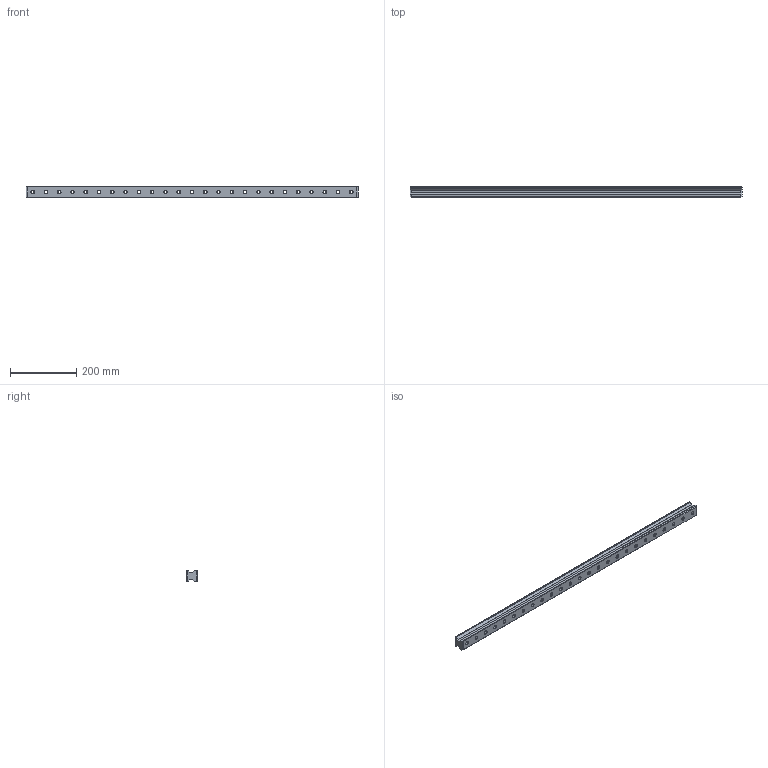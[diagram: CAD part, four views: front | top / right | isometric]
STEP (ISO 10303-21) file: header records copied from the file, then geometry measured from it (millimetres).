
FILE_DESCRIPTION(/* description */ ('STEP AP214'),/* implementation_level */ '2;1');
FILE_NAME(/* name */ 'ERG35P6-1000LA______CAD_NO_(20)',/* time_stamp */ '2026-05-18T11:20:09+02:00',/* author */ ('License CC BY-ND 4.0'),/* organization */ ('CADENAS'),/* preprocessor_version */ 'ST-DEVELOPER v20',/* originating_system */ 'PARTsolutions',/* authorisation */ ' ');
FILE_SCHEMA (('AUTOMOTIVE_DESIGN {1 0 10303 214 3 1 1}'));
Length unit declared in the file: millimetre
Products named in the file (2): ERG35P6-1000LA______CAD_NO_(20); ERG35P6-1000LA(20)_rail
Assembly tree (1 placements, depth 2):
  ERG35P6-1000LA______CAD_NO_(20)
    ERG35P6-1000LA(20)_rail
Bounding box: 1000 x 31.6 x 34 mm (x, y, z)
Volume: 829100.7 mm3; surface area: 163237.2 mm2
Topology: 1 solids, 1 shells, 197 faces, 436 edges, 266 vertices
Faces by surface type: plane 83, cylinder 64, cone 50
Full cylindrical faces by diameter (mm): 9 x25, 14 x25
Entity records: 5053 total; most frequent: DIRECTION 920, CARTESIAN_POINT 801, ORIENTED_EDGE 672, AXIS2_PLACEMENT_3D 385, EDGE_LOOP 372, FACE_BOUND 372, EDGE_CURVE 336, VERTEX_POINT 266
